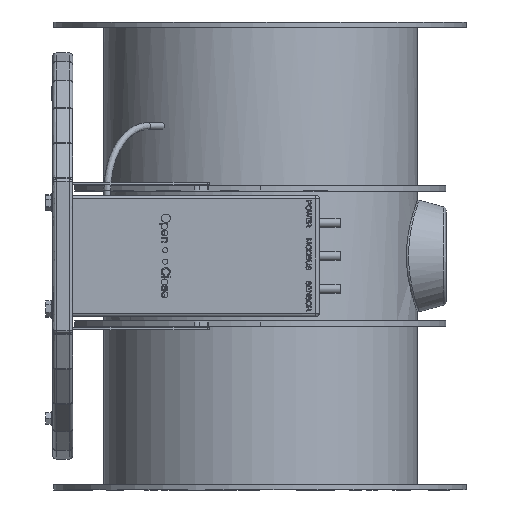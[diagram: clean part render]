
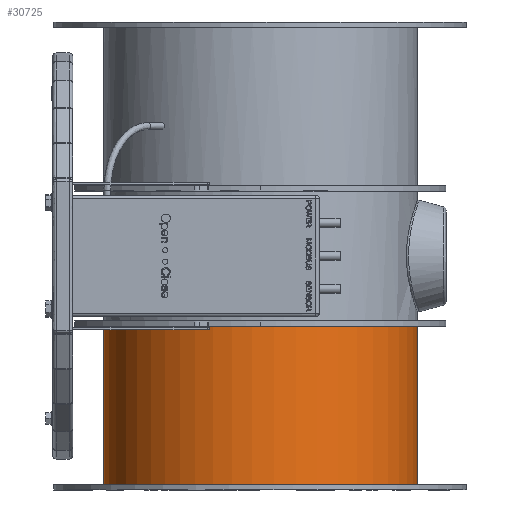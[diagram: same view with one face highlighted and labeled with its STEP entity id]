
A CAD part, front view. The second image highlights one B-rep face of the part: STEP entity #30725.
In plain terms, the highlighted free-form (B-spline) face has degree [2, 1] with [7, 2] control points.
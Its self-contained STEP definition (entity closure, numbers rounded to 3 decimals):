
#30678=CARTESIAN_POINT('',(90.4,0.,-132.));
#30679=CARTESIAN_POINT('',(90.4,0.,132.));
#30680=CARTESIAN_POINT('',(90.4,156.577,-132.));
#30681=CARTESIAN_POINT('',(90.4,156.577,132.));
#30682=CARTESIAN_POINT('',(-45.2,78.289,-132.));
#30683=CARTESIAN_POINT('',(-45.2,78.289,132.));
#30684=CARTESIAN_POINT('',(-180.8,0.,-132.));
#30685=CARTESIAN_POINT('',(-180.8,0.,132.));
#30686=CARTESIAN_POINT('',(-45.2,-78.289,-132.));
#30687=CARTESIAN_POINT('',(-45.2,-78.289,132.));
#30688=CARTESIAN_POINT('',(90.4,-156.577,-132.));
#30689=CARTESIAN_POINT('',(90.4,-156.577,132.));
#30690=CARTESIAN_POINT('',(90.4,0.,-132.));
#30691=CARTESIAN_POINT('',(90.4,0.,132.));
#30692=(BOUNDED_SURFACE()B_SPLINE_SURFACE(2,1,((#30678,#30679),(#30680,#30681),(#30682,#30683),(#30684,#30685),(#30686,#30687),(#30688,#30689),(#30690,#30691)),.CYLINDRICAL_SURF.,.T.,.F.,.U.)B_SPLINE_SURFACE_WITH_KNOTS((3,2,2,3),(2,2),(0.,0.333,0.667,1.),(0.011,0.989),.UNSPECIFIED.)GEOMETRIC_REPRESENTATION_ITEM()RATIONAL_B_SPLINE_SURFACE(((1.,1.),(0.5,0.5),(1.,1.),(0.5,0.5),(1.,1.),(0.5,0.5),(1.,1.)))REPRESENTATION_ITEM('')SURFACE());
#30693=CARTESIAN_POINT('',(90.4,0.,-40.5));
#30694=VERTEX_POINT('',#30693);
#30695=CARTESIAN_POINT('',(90.4,0.,-40.5));
#30696=CARTESIAN_POINT('',(90.4,156.577,-40.5));
#30697=CARTESIAN_POINT('',(-45.2,78.289,-40.5));
#30698=CARTESIAN_POINT('',(-180.8,0.,-40.5));
#30699=CARTESIAN_POINT('',(-45.2,-78.289,-40.5));
#30700=CARTESIAN_POINT('',(90.4,-156.577,-40.5));
#30701=CARTESIAN_POINT('',(90.4,0.,-40.5));
#30702=(BOUNDED_CURVE()B_SPLINE_CURVE(2,(#30695,#30696,#30697,#30698,#30699,#30700,#30701),.CIRCULAR_ARC.,.T.,.U.)B_SPLINE_CURVE_WITH_KNOTS((3,2,2,3),(0.,0.333,0.667,1.),.UNSPECIFIED.)CURVE()GEOMETRIC_REPRESENTATION_ITEM()RATIONAL_B_SPLINE_CURVE((1.,0.5,1.,0.5,1.,0.5,1.))REPRESENTATION_ITEM(''));
#30703=EDGE_CURVE('',#30694,#30694,#30702,.T.);
#30704=ORIENTED_EDGE('',*,*,#30703,.F.);
#30705=CARTESIAN_POINT('',(90.4,0.,-132.));
#30706=VERTEX_POINT('',#30705);
#30707=CARTESIAN_POINT('',(90.4,0.,-132.));
#30708=CARTESIAN_POINT('',(90.4,0.,-40.5));
#30709=B_SPLINE_CURVE_WITH_KNOTS('',1,(#30707,#30708),.POLYLINE_FORM.,.F.,.U.,(2,2),(0.011,0.35),.UNSPECIFIED.);
#30710=EDGE_CURVE('',#30706,#30694,#30709,.T.);
#30711=ORIENTED_EDGE('',*,*,#30710,.F.);
#30712=CARTESIAN_POINT('',(90.4,0.,-132.));
#30713=CARTESIAN_POINT('',(90.4,156.577,-132.));
#30714=CARTESIAN_POINT('',(-45.2,78.289,-132.));
#30715=CARTESIAN_POINT('',(-180.8,0.,-132.));
#30716=CARTESIAN_POINT('',(-45.2,-78.289,-132.));
#30717=CARTESIAN_POINT('',(90.4,-156.577,-132.));
#30718=CARTESIAN_POINT('',(90.4,0.,-132.));
#30719=(BOUNDED_CURVE()B_SPLINE_CURVE(2,(#30712,#30713,#30714,#30715,#30716,#30717,#30718),.CIRCULAR_ARC.,.T.,.U.)B_SPLINE_CURVE_WITH_KNOTS((3,2,2,3),(0.,0.333,0.667,1.),.UNSPECIFIED.)CURVE()GEOMETRIC_REPRESENTATION_ITEM()RATIONAL_B_SPLINE_CURVE((1.,0.5,1.,0.5,1.,0.5,1.))REPRESENTATION_ITEM(''));
#30720=EDGE_CURVE('',#30706,#30706,#30719,.T.);
#30721=ORIENTED_EDGE('',*,*,#30720,.T.);
#30722=ORIENTED_EDGE('',*,*,#30710,.T.);
#30723=EDGE_LOOP('',(#30704,#30711,#30721,#30722));
#30724=FACE_OUTER_BOUND('',#30723,.T.);
#30725=ADVANCED_FACE('',(#30724),#30692,.T.);
